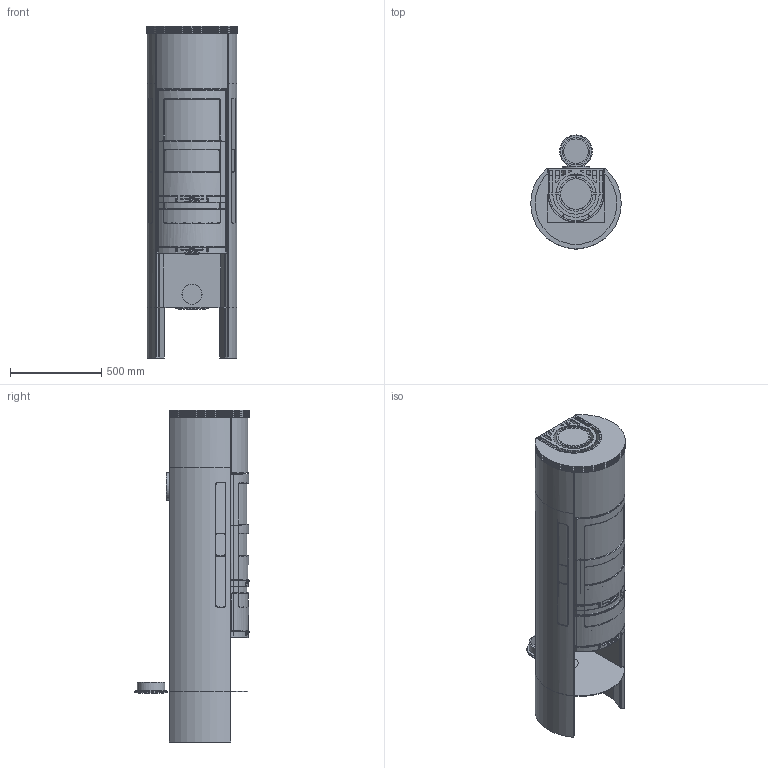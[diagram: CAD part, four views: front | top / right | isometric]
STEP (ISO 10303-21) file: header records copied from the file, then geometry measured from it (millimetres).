
FILE_DESCRIPTION( ( 'Unknown' ), '1' );
FILE_NAME( 'C:/Users/HAnilsd/AppData/Roaming/Unigraphics Solutions/Solid Edge/Insight/insight/insight/interior models/C590 Assembly.stp', 'Unknown', ( 'Unknown' ), ( 'Unknown' ), 'PSStep 13.0', 'Unknown', ' ' );
FILE_SCHEMA( ( 'AUTOMOTIVE_DESIGN { 1 0 10303 214 1 1 1 1 }' ) );
Length unit declared in the file: millimetre
Products named in the file (26): Assem1; Upper Front; Rear C590; Door C590; Lid Lattice C590; Lattice C590; Foot C590; Top Plate C500; Insert C500; Lid; Glass C500; Fire C500; Vermiculite C500; Bottom Cast Iron C500; Lower Front Smal; Inside Shielding C550; Connection; Side Glas C500; Sides C590
Bounding box: 496 x 625.35 x 1818.15 mm (x, y, z)
Volume: 386708713.6 mm3; surface area: 23052349.9 mm2
Topology: 52 solids, 52 shells, 3195 faces, 8447 edges, 5469 vertices
Faces by surface type: plane 1837, cylinder 688, extrusion 320, bspline 246, torus 62, sphere 30, cone 12
Full cylindrical faces by diameter (mm): 62 x2, 66 x2, 109 x4, 110 x4, 134 x3, 150 x3, 168 x2, 170 x5, 178 x3, 202 x2, 212 x2
Entity records: 98559 total; most frequent: CARTESIAN_POINT 47631, ORIENTED_EDGE 8334, DIRECTION 6944, EDGE_CURVE 4167, VERTEX_POINT 2713, VECTOR 2690, LINE 2530, AXIS2_PLACEMENT_3D 2127
